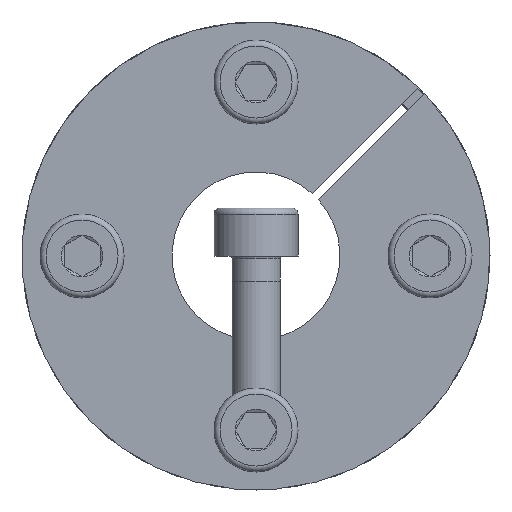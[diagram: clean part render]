
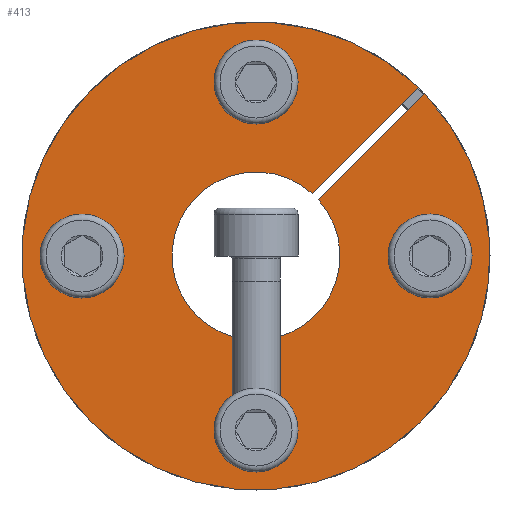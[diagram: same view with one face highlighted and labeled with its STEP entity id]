
A CAD part, front view. The second image highlights one B-rep face of the part: STEP entity #413.
In plain terms, the highlighted planar face has unit normal (0, -1, 0).
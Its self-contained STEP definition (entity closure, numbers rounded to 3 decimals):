
#413 = ADVANCED_FACE( '', ( #707, #708, #709, #710, #711 ), #712, .F. );
#707 = FACE_BOUND( '', #1015, .T. );
#708 = FACE_BOUND( '', #1016, .T. );
#709 = FACE_BOUND( '', #1017, .T. );
#710 = FACE_BOUND( '', #1018, .T. );
#711 = FACE_OUTER_BOUND( '', #1019, .T. );
#712 = PLANE( '', #1020 );
#1015 = EDGE_LOOP( '', ( #1434 ) );
#1016 = EDGE_LOOP( '', ( #1435 ) );
#1017 = EDGE_LOOP( '', ( #1436 ) );
#1018 = EDGE_LOOP( '', ( #1437 ) );
#1019 = EDGE_LOOP( '', ( #1438, #1439, #1440, #1441 ) );
#1020 = AXIS2_PLACEMENT_3D( '', #1442, #1443, #1444 );
#1434 = ORIENTED_EDGE( '', *, *, #2089, .T. );
#1435 = ORIENTED_EDGE( '', *, *, #2100, .T. );
#1436 = ORIENTED_EDGE( '', *, *, #2101, .T. );
#1437 = ORIENTED_EDGE( '', *, *, #2093, .T. );
#1438 = ORIENTED_EDGE( '', *, *, #2087, .T. );
#1439 = ORIENTED_EDGE( '', *, *, #2094, .T. );
#1440 = ORIENTED_EDGE( '', *, *, #2064, .T. );
#1441 = ORIENTED_EDGE( '', *, *, #2055, .F. );
#1442 = CARTESIAN_POINT( '', ( 0., 0., 19.5 ) );
#1443 = DIRECTION( '', ( 0., 1., 0. ) );
#1444 = DIRECTION( '', ( 0., 0., 1. ) );
#2055 = EDGE_CURVE( '', #2278, #2274, #2280, .T. );
#2064 = EDGE_CURVE( '', #2297, #2274, #2298, .T. );
#2087 = EDGE_CURVE( '', #2278, #2333, #2335, .T. );
#2089 = EDGE_CURVE( '', #2338, #2338, #2339, .T. );
#2093 = EDGE_CURVE( '', #2344, #2344, #2345, .T. );
#2094 = EDGE_CURVE( '', #2333, #2297, #2346, .T. );
#2100 = EDGE_CURVE( '', #2355, #2355, #2356, .T. );
#2101 = EDGE_CURVE( '', #2357, #2357, #2358, .T. );
#2274 = VERTEX_POINT( '', #2539 );
#2278 = VERTEX_POINT( '', #2544 );
#2280 = CIRCLE( '', #2547, 7. );
#2297 = VERTEX_POINT( '', #2572 );
#2298 = LINE( '', #2573, #2574 );
#2333 = VERTEX_POINT( '', #2638 );
#2335 = LINE( '', #2641, #2642 );
#2338 = VERTEX_POINT( '', #2645 );
#2339 = CIRCLE( '', #2646, 2. );
#2344 = VERTEX_POINT( '', #2651 );
#2345 = CIRCLE( '', #2652, 2. );
#2346 = CIRCLE( '', #2653, 19.5 );
#2355 = VERTEX_POINT( '', #2662 );
#2356 = CIRCLE( '', #2663, 2. );
#2357 = VERTEX_POINT( '', #2664 );
#2358 = CIRCLE( '', #2665, 2. );
#2539 = CARTESIAN_POINT( '', ( 5.208, 0., 4.677 ) );
#2544 = CARTESIAN_POINT( '', ( 4.677, 0., 5.208 ) );
#2547 = AXIS2_PLACEMENT_3D( '', #3000, #3001, #3002 );
#2572 = CARTESIAN_POINT( '', ( 14.051, 0., 13.521 ) );
#2573 = CARTESIAN_POINT( '', ( 14.054, 0., 13.523 ) );
#2574 = VECTOR( '', #3017, 1000. );
#2638 = CARTESIAN_POINT( '', ( 13.521, 0., 14.051 ) );
#2641 = CARTESIAN_POINT( '', ( 4.677, 0., 5.208 ) );
#2642 = VECTOR( '', #3042, 1000. );
#2645 = CARTESIAN_POINT( '', ( 2., 0., 14.5 ) );
#2646 = AXIS2_PLACEMENT_3D( '', #3046, #3047, #3048 );
#2651 = CARTESIAN_POINT( '', ( -14.5, 0., 2. ) );
#2652 = AXIS2_PLACEMENT_3D( '', #3058, #3059, #3060 );
#2653 = AXIS2_PLACEMENT_3D( '', #3061, #3062, #3063 );
#2662 = CARTESIAN_POINT( '', ( 14.5, 0., -2. ) );
#2663 = AXIS2_PLACEMENT_3D( '', #3079, #3080, #3081 );
#2664 = CARTESIAN_POINT( '', ( -2., 0., -14.5 ) );
#2665 = AXIS2_PLACEMENT_3D( '', #3082, #3083, #3084 );
#3000 = CARTESIAN_POINT( '', ( 0., 0., 0. ) );
#3001 = DIRECTION( '', ( 0., -1., 0. ) );
#3002 = DIRECTION( '', ( 0., 0., -1. ) );
#3017 = DIRECTION( '', ( -0.707, 0., -0.707 ) );
#3042 = DIRECTION( '', ( 0.707, 0., 0.707 ) );
#3046 = CARTESIAN_POINT( '', ( 0., 0., 14.5 ) );
#3047 = DIRECTION( '', ( 0., 1., 0. ) );
#3048 = DIRECTION( '', ( 1., 0., 0. ) );
#3058 = CARTESIAN_POINT( '', ( -14.5, 0., 0. ) );
#3059 = DIRECTION( '', ( 0., 1., 0. ) );
#3060 = DIRECTION( '', ( 0., 0., 1. ) );
#3061 = CARTESIAN_POINT( '', ( 0., 0., 0. ) );
#3062 = DIRECTION( '', ( 0., -1., 0. ) );
#3063 = DIRECTION( '', ( 0., 0., -1. ) );
#3079 = CARTESIAN_POINT( '', ( 14.5, 0., 0. ) );
#3080 = DIRECTION( '', ( 0., 1., 0. ) );
#3081 = DIRECTION( '', ( 0., 0., -1. ) );
#3082 = CARTESIAN_POINT( '', ( 0., 0., -14.5 ) );
#3083 = DIRECTION( '', ( 0., 1., 0. ) );
#3084 = DIRECTION( '', ( -1., 0., 0. ) );
